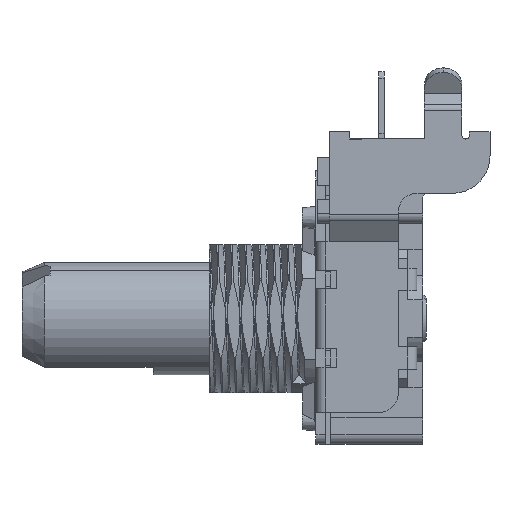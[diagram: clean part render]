
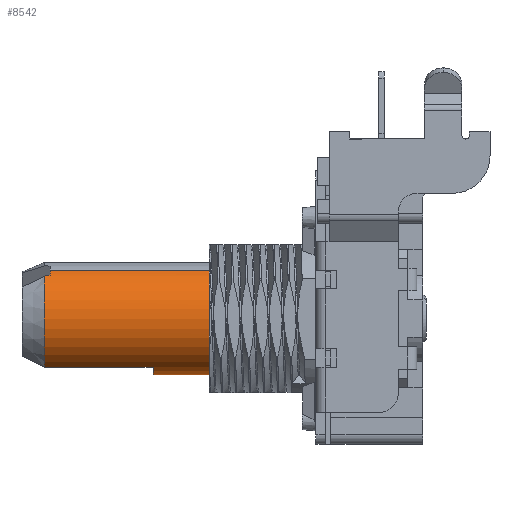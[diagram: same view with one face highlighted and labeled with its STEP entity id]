
A CAD part, left-side view. The second image highlights one B-rep face of the part: STEP entity #8542.
In plain terms, the highlighted cylindrical face has radius 3 mm (diameter 6 mm), a partial arc.
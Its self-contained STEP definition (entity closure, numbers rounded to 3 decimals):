
#215 = CARTESIAN_POINT ( 'NONE',  ( 0., 17.3, 0. ) ) ;
#492 = ORIENTED_EDGE ( 'NONE', *, *, #14036, .F. ) ;
#1127 = CARTESIAN_POINT ( 'NONE',  ( 0., 17.6, 0. ) ) ;
#1193 = DIRECTION ( 'NONE',  ( 0., 1., 0. ) ) ;
#1408 = FACE_OUTER_BOUND ( 'NONE', #21476, .T. ) ;
#1480 = CARTESIAN_POINT ( 'NONE',  ( 0., 17.6, -3. ) ) ;
#2673 = DIRECTION ( 'NONE',  ( 0., 1., 0. ) ) ;
#2817 = VERTEX_POINT ( 'NONE', #24861 ) ;
#2858 = CIRCLE ( 'NONE', #23249, 3. ) ;
#3679 = DIRECTION ( 'NONE',  ( 0., 0., 1. ) ) ;
#3718 = CYLINDRICAL_SURFACE ( 'NONE', #7587, 3. ) ;
#4122 = CARTESIAN_POINT ( 'NONE',  ( 2.598, 17.6, 1.5 ) ) ;
#4282 = ORIENTED_EDGE ( 'NONE', *, *, #17813, .F. ) ;
#6693 = ORIENTED_EDGE ( 'NONE', *, *, #21403, .T. ) ;
#6697 = DIRECTION ( 'NONE',  ( 0., -1., 0. ) ) ;
#6804 = VERTEX_POINT ( 'NONE', #10567 ) ;
#6921 = DIRECTION ( 'NONE',  ( 0., -1., 0. ) ) ;
#7051 = LINE ( 'NONE', #18040, #15238 ) ;
#7332 = LINE ( 'NONE', #1480, #10605 ) ;
#7587 = AXIS2_PLACEMENT_3D ( 'NONE', #14720, #6921, #20392 ) ;
#7717 = VERTEX_POINT ( 'NONE', #11216 ) ;
#8542 = ADVANCED_FACE ( 'NONE', ( #1408 ), #3718, .T. ) ;
#8733 = DIRECTION ( 'NONE',  ( 0., 0., -1. ) ) ;
#10492 = VECTOR ( 'NONE', #2673, 1000. ) ;
#10567 = CARTESIAN_POINT ( 'NONE',  ( 0., 11.8, 3. ) ) ;
#10605 = VECTOR ( 'NONE', #34294, 1000. ) ;
#11211 = CARTESIAN_POINT ( 'NONE',  ( 0.55, 17.6, -2.949 ) ) ;
#11216 = CARTESIAN_POINT ( 'NONE',  ( 0., 2.5, 3. ) ) ;
#12130 = DIRECTION ( 'NONE',  ( 0., 1., 0. ) ) ;
#13709 = CARTESIAN_POINT ( 'NONE',  ( 0.5, 17.3, -2.958 ) ) ;
#13975 = AXIS2_PLACEMENT_3D ( 'NONE', #1127, #12130, #14616 ) ;
#13997 = AXIS2_PLACEMENT_3D ( 'NONE', #28969, #15497, #26301 ) ;
#14007 = CARTESIAN_POINT ( 'NONE',  ( 2.598, 11.8, 1.5 ) ) ;
#14036 = EDGE_CURVE ( 'NONE', #23765, #29060, #18127, .T. ) ;
#14616 = DIRECTION ( 'NONE',  ( 0., 0., 1. ) ) ;
#14720 = CARTESIAN_POINT ( 'NONE',  ( 0., 17.6, 0. ) ) ;
#15238 = VECTOR ( 'NONE', #6697, 1000. ) ;
#15497 = DIRECTION ( 'NONE',  ( 0., 1., 0. ) ) ;
#16360 = CARTESIAN_POINT ( 'NONE',  ( 0.533, 17.5, -2.952 ) ) ;
#17391 = CIRCLE ( 'NONE', #13997, 3. ) ;
#17591 = CIRCLE ( 'NONE', #30025, 3. ) ;
#17813 = EDGE_CURVE ( 'NONE', #29060, #28204, #32102, .T. ) ;
#17923 = ORIENTED_EDGE ( 'NONE', *, *, #24343, .F. ) ;
#18040 = CARTESIAN_POINT ( 'NONE',  ( 0., 17.6, 3. ) ) ;
#18127 = LINE ( 'NONE', #26973, #10492 ) ;
#18340 = CARTESIAN_POINT ( 'NONE',  ( 0.5, 17.3, -2.958 ) ) ;
#19732 = CARTESIAN_POINT ( 'NONE',  ( 0., 17.3, -3. ) ) ;
#20392 = DIRECTION ( 'NONE',  ( 0., 0., -1. ) ) ;
#21396 = EDGE_CURVE ( 'NONE', #25992, #2817, #7332, .T. ) ;
#21403 = EDGE_CURVE ( 'NONE', #7717, #2817, #17391, .T. ) ;
#21476 = EDGE_LOOP ( 'NONE', ( #26750, #31543, #6693, #22578, #25843, #17923, #4282, #492 ) ) ;
#21627 = VERTEX_POINT ( 'NONE', #18340 ) ;
#22578 = ORIENTED_EDGE ( 'NONE', *, *, #21396, .F. ) ;
#23249 = AXIS2_PLACEMENT_3D ( 'NONE', #28150, #1193, #3679 ) ;
#23603 =( BOUNDED_CURVE ( )  B_SPLINE_CURVE ( 3, ( #11211, #16360, #27170, #13709 ),
 .UNSPECIFIED., .F., .T. ) 
 B_SPLINE_CURVE_WITH_KNOTS ( ( 4, 4 ),
 ( 4.528, 4.545 ),
 .UNSPECIFIED. ) 
 CURVE ( )  GEOMETRIC_REPRESENTATION_ITEM ( )  RATIONAL_B_SPLINE_CURVE ( ( 1., 1., 1., 1. ) ) 
 REPRESENTATION_ITEM ( '' )  );
#23765 = VERTEX_POINT ( 'NONE', #14007 ) ;
#24343 = EDGE_CURVE ( 'NONE', #28204, #21627, #23603, .T. ) ;
#24511 = DIRECTION ( 'NONE',  ( 0., 1., 0. ) ) ;
#24861 = CARTESIAN_POINT ( 'NONE',  ( 0., 2.5, -3. ) ) ;
#25843 = ORIENTED_EDGE ( 'NONE', *, *, #28487, .F. ) ;
#25992 = VERTEX_POINT ( 'NONE', #19732 ) ;
#26301 = DIRECTION ( 'NONE',  ( 0., 0., 1. ) ) ;
#26750 = ORIENTED_EDGE ( 'NONE', *, *, #30281, .F. ) ;
#26763 = EDGE_CURVE ( 'NONE', #6804, #7717, #7051, .T. ) ;
#26973 = CARTESIAN_POINT ( 'NONE',  ( 2.598, 11.8, 1.5 ) ) ;
#27170 = CARTESIAN_POINT ( 'NONE',  ( 0.517, 17.4, -2.955 ) ) ;
#28150 = CARTESIAN_POINT ( 'NONE',  ( 0., 11.8, 0. ) ) ;
#28204 = VERTEX_POINT ( 'NONE', #34835 ) ;
#28487 = EDGE_CURVE ( 'NONE', #21627, #25992, #17591, .T. ) ;
#28969 = CARTESIAN_POINT ( 'NONE',  ( 0., 2.5, 0. ) ) ;
#29060 = VERTEX_POINT ( 'NONE', #4122 ) ;
#30025 = AXIS2_PLACEMENT_3D ( 'NONE', #215, #24511, #8733 ) ;
#30281 = EDGE_CURVE ( 'NONE', #6804, #23765, #2858, .T. ) ;
#31543 = ORIENTED_EDGE ( 'NONE', *, *, #26763, .T. ) ;
#32102 = CIRCLE ( 'NONE', #13975, 3. ) ;
#34294 = DIRECTION ( 'NONE',  ( 0., -1., 0. ) ) ;
#34835 = CARTESIAN_POINT ( 'NONE',  ( 0.55, 17.6, -2.949 ) ) ;
